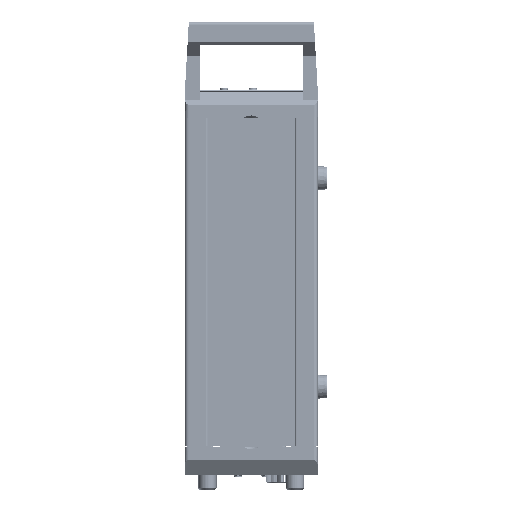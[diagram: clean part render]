
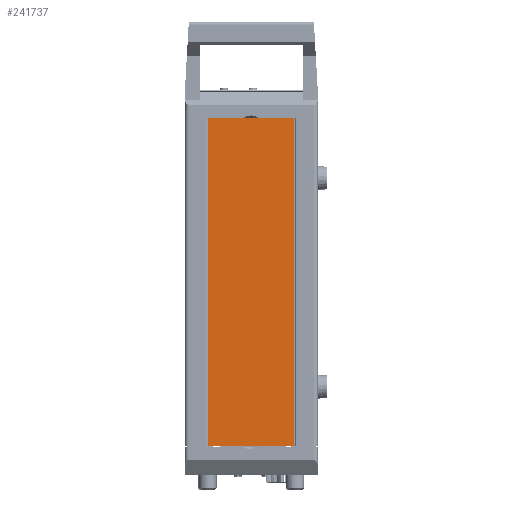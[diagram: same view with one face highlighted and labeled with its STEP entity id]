
A CAD part, left-side view. The second image highlights one B-rep face of the part: STEP entity #241737.
In plain terms, the highlighted planar face has unit normal (1, 0, 0).
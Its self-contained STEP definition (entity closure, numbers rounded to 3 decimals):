
#14447 = VERTEX_POINT ( 'NONE', #125484 ) ;
#17790 = DIRECTION ( 'NONE',  ( -1., 0., 0. ) ) ;
#30074 = LINE ( 'NONE', #173690, #38612 ) ;
#38612 = VECTOR ( 'NONE', #102584, 1000. ) ;
#64519 = PLANE ( 'NONE',  #206915 ) ;
#65498 = ORIENTED_EDGE ( 'NONE', *, *, #256336, .T. ) ;
#67775 = ORIENTED_EDGE ( 'NONE', *, *, #307821, .T. ) ;
#73332 = DIRECTION ( 'NONE',  ( 0., -1., 0. ) ) ;
#81260 = VECTOR ( 'NONE', #107227, 1000. ) ;
#85567 = EDGE_CURVE ( 'NONE', #255468, #203773, #30074, .T. ) ;
#95804 = EDGE_LOOP ( 'NONE', ( #67775, #65498, #119730, #307896 ) ) ;
#99148 = CARTESIAN_POINT ( 'NONE',  ( -170.56, 28.45, 11.2 ) ) ;
#102584 = DIRECTION ( 'NONE',  ( 0., 0., -1. ) ) ;
#107227 = DIRECTION ( 'NONE',  ( 0., 1., 0. ) ) ;
#113586 = CARTESIAN_POINT ( 'NONE',  ( -170.56, 28.45, -206.2 ) ) ;
#119730 = ORIENTED_EDGE ( 'NONE', *, *, #213133, .T. ) ;
#125484 = CARTESIAN_POINT ( 'NONE',  ( -170.56, 28.45, -206.2 ) ) ;
#134950 = VERTEX_POINT ( 'NONE', #137735 ) ;
#135625 = VECTOR ( 'NONE', #260285, 1000. ) ;
#137735 = CARTESIAN_POINT ( 'NONE',  ( -170.56, 28.45, 11.2 ) ) ;
#142387 = VECTOR ( 'NONE', #73332, 1000. ) ;
#161401 = CARTESIAN_POINT ( 'NONE',  ( -170.56, -28.45, 11.2 ) ) ;
#161819 = LINE ( 'NONE', #236062, #135625 ) ;
#166847 = CARTESIAN_POINT ( 'NONE',  ( -170.56, -28.45, -206.2 ) ) ;
#173690 = CARTESIAN_POINT ( 'NONE',  ( -170.56, -28.45, -206.2 ) ) ;
#190367 = DIRECTION ( 'NONE',  ( 0., 0., 1. ) ) ;
#203773 = VERTEX_POINT ( 'NONE', #166847 ) ;
#206915 = AXIS2_PLACEMENT_3D ( 'NONE', #161401, #17790, #190367 ) ;
#208924 = LINE ( 'NONE', #113586, #81260 ) ;
#213133 = EDGE_CURVE ( 'NONE', #134950, #255468, #294516, .T. ) ;
#236062 = CARTESIAN_POINT ( 'NONE',  ( -170.56, 28.45, -206.2 ) ) ;
#241737 = ADVANCED_FACE ( 'NONE', ( #308294 ), #64519, .F. ) ;
#255468 = VERTEX_POINT ( 'NONE', #317460 ) ;
#256336 = EDGE_CURVE ( 'NONE', #14447, #134950, #161819, .T. ) ;
#260285 = DIRECTION ( 'NONE',  ( 0., 0., 1. ) ) ;
#294516 = LINE ( 'NONE', #99148, #142387 ) ;
#307821 = EDGE_CURVE ( 'NONE', #203773, #14447, #208924, .T. ) ;
#307896 = ORIENTED_EDGE ( 'NONE', *, *, #85567, .T. ) ;
#308294 = FACE_OUTER_BOUND ( 'NONE', #95804, .T. ) ;
#317460 = CARTESIAN_POINT ( 'NONE',  ( -170.56, -28.45, 11.2 ) ) ;
